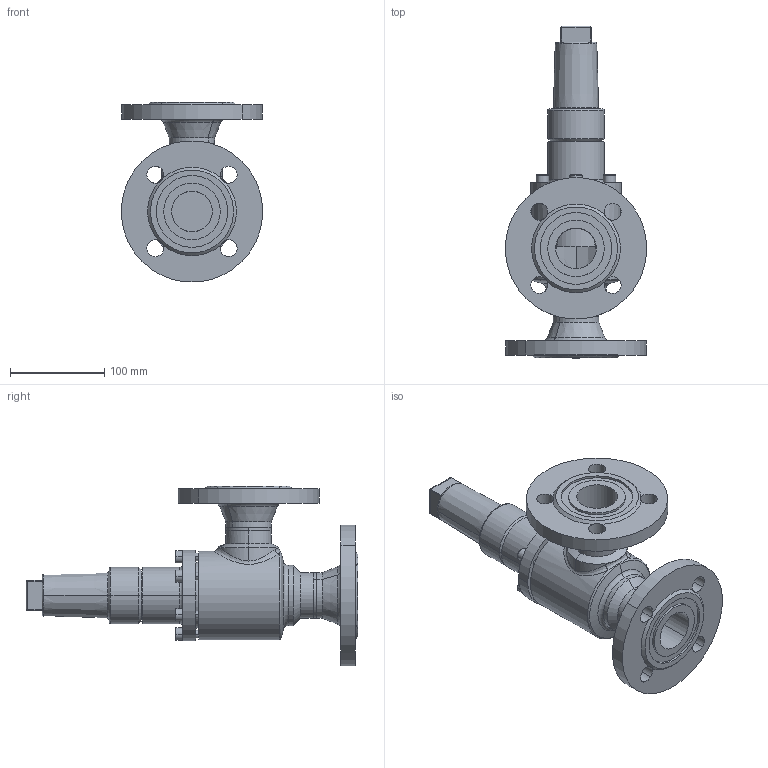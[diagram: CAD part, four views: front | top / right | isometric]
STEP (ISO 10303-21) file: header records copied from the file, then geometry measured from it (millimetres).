
FILE_DESCRIPTION (( 'STEP AP214' ), '1' );
FILE_NAME ('RVAK27420D14-DN040_DIN-FL-N_PS40.STEP', '2006-04-27T14:04:06', ( 'Herr Grams' ), ( 'AWP GmbH' ), 'SwSTEP 2.0', 'SolidWorks 2002296', '' );
FILE_SCHEMA (( 'AUTOMOTIVE_DESIGN' ));
Length unit declared in the file: millimetre
Products named in the file (10): RVAK27420D14-DN040_DIN-FL-N_PS40; Gehäuse-kpl16420-DN040_DIN_PS40_Standard; Gehäuse16400-DN040_Standard; Flansch-DIN2635-Nut_PS40_DIN-Flansch-DN040_PS40-Nut; bead16420-Geh-040-1_Standard; bead16420-Geh-040-2_Standard; Kappe16402_DN040-65_Standard; RVA29300E15_Deck-Schr-DN40-50_Standard; Deckel29300E15-DN40-50_Standard; Zylinderschraube-DIN912_M 8x 25
Assembly tree (15 placements, depth 3):
  RVAK27420D14-DN040_DIN-FL-N_PS40
    Kappe16402_DN040-65_Standard
    RVA29300E15_Deck-Schr-DN40-50_Standard
      Deckel29300E15-DN40-50_Standard
      Zylinderschraube-DIN912_M 8x 25  x6
    Gehäuse-kpl16420-DN040_DIN_PS40_Standard
      bead16420-Geh-040-1_Standard
      bead16420-Geh-040-2_Standard
      Flansch-DIN2635-Nut_PS40_DIN-Flansch-DN040_PS40-Nut  x2
      Gehäuse16400-DN040_Standard
Bounding box: 149.43 x 352 x 190.71 mm (x, y, z)
Volume: 1436604.8 mm3; surface area: 258709.7 mm2
Topology: 13 solids, 13 shells, 321 faces, 737 edges, 462 vertices
Faces by surface type: cylinder 123, plane 103, cone 53, torus 31, bspline 11
Entity records: 18238 total; most frequent: CARTESIAN_POINT 13009, DIRECTION 1025, ORIENTED_EDGE 930, EDGE_CURVE 465, AXIS2_PLACEMENT_3D 437, VERTEX_POINT 290, EDGE_LOOP 239, CIRCLE 229
